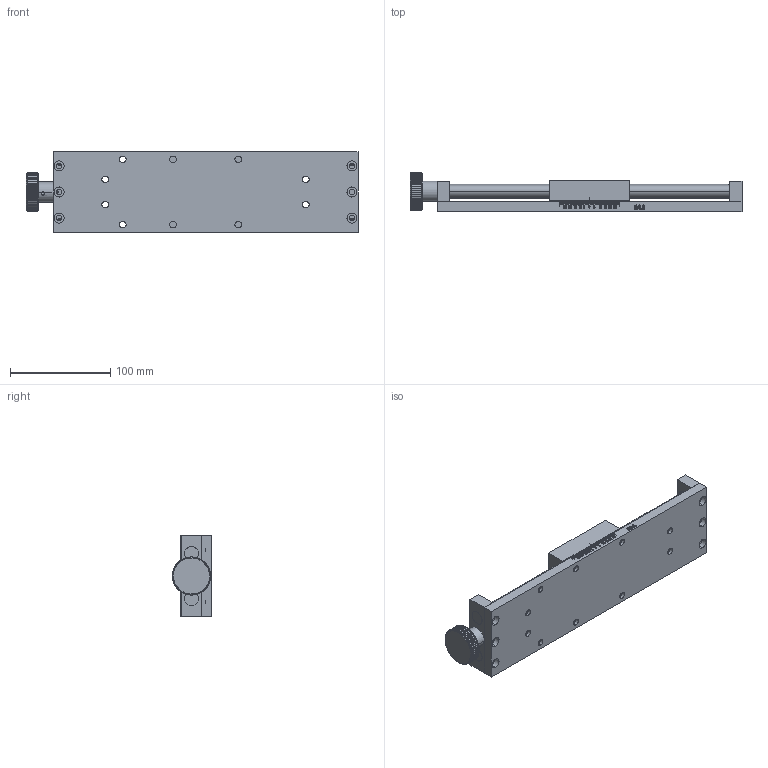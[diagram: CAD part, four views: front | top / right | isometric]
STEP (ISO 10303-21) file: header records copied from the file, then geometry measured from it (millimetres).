
FILE_DESCRIPTION (( 'STEP AP214' ), '1' );
FILE_NAME ('PT-ST200.STEP', '2022-08-21T03:20:15', ( '' ), ( '' ), 'SwSTEP 2.0', 'SolidWorks 2017', '' );
FILE_SCHEMA (( 'AUTOMOTIVE_DESIGN' ));
Length unit declared in the file: millimetre
Products named in the file (7): 菁釱; hex socket set screws with cone point gb_GB_FASTENER_SCREWS_HSCP M4X8-N; 菁釱5; 唅聽38; PT-ST200; 賑輸; 菁釱3
Assembly tree (10 placements, depth 2):
  PT-ST200
    菁釱
    菁釱3
    菁釱5
    賑輸
    hex socket set screws with cone point gb_GB_FASTENER_SCREWS_HSCP M4X8-N  x5
    唅聽38
Bounding box: 331 x 39 x 80 mm (x, y, z)
Volume: 490553.5 mm3; surface area: 122142.1 mm2
Topology: 10 solids, 11 shells, 1554 faces, 4326 edges, 2850 vertices
Faces by surface type: plane 1014, bspline 292, cylinder 202, cone 46
Entity records: 60346 total; most frequent: CARTESIAN_POINT 24157, ORIENTED_EDGE 8244, DIRECTION 5946, EDGE_CURVE 4122, VECTOR 2768, LINE 2768, VERTEX_POINT 2742, AXIS2_PLACEMENT_3D 1589
